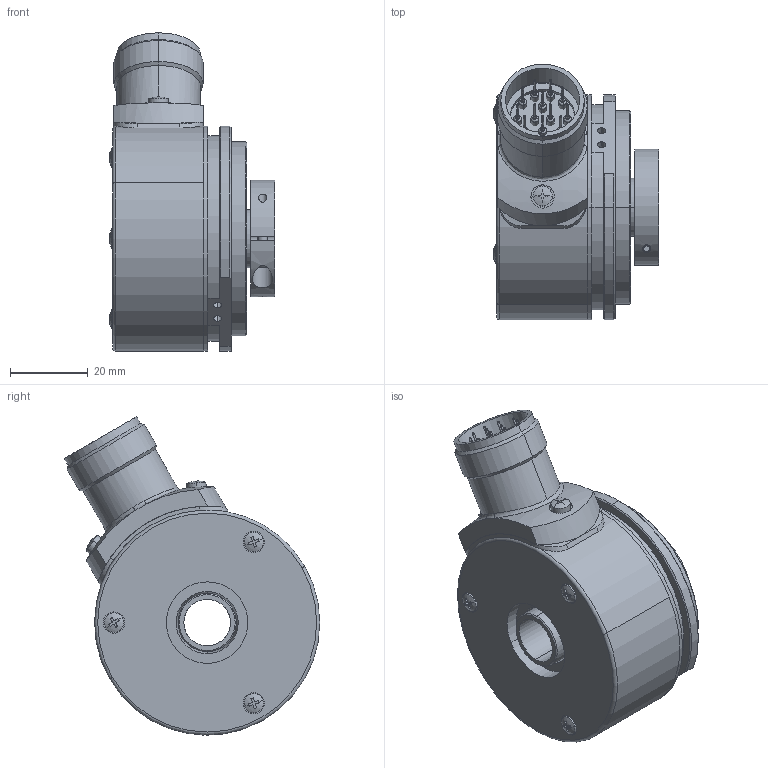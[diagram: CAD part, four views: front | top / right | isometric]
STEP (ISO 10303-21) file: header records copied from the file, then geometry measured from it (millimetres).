
FILE_DESCRIPTION (( 'STEP AP214' ), '1' );
FILE_NAME ('5824.17X2.XXXX.STEP', '2011-03-31T12:07:59', ( 'admin' ), ( 'Fritz Kübler GmbH' ), 'SwSTEP 2.0', 'SolidWorks 2009', '' );
FILE_SCHEMA (( 'AUTOMOTIVE_DESIGN' ));
Length unit declared in the file: millimetre
Products named in the file (1): 5824.17X2.XXXX
Bounding box: 42.58 x 65.81 x 82.01 mm (x, y, z)
Volume: 54829.6 mm3; surface area: 42499.9 mm2
Topology: 29 solids, 29 shells, 932 faces, 2119 edges, 1297 vertices
Faces by surface type: cylinder 420, plane 270, cone 148, torus 56, sphere 34, bspline 4
Entity records: 39141 total; most frequent: CARTESIAN_POINT 7109, DIRECTION 4891, ORIENTED_EDGE 4134, EDGE_CURVE 2067, AXIS2_PLACEMENT_3D 2013, VERTEX_POINT 1297, EDGE_LOOP 1096, CIRCLE 1084
